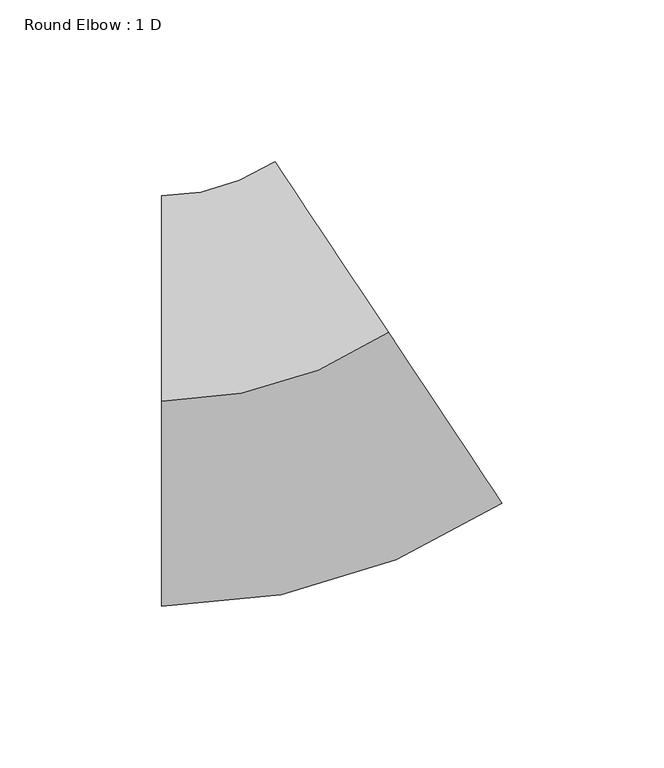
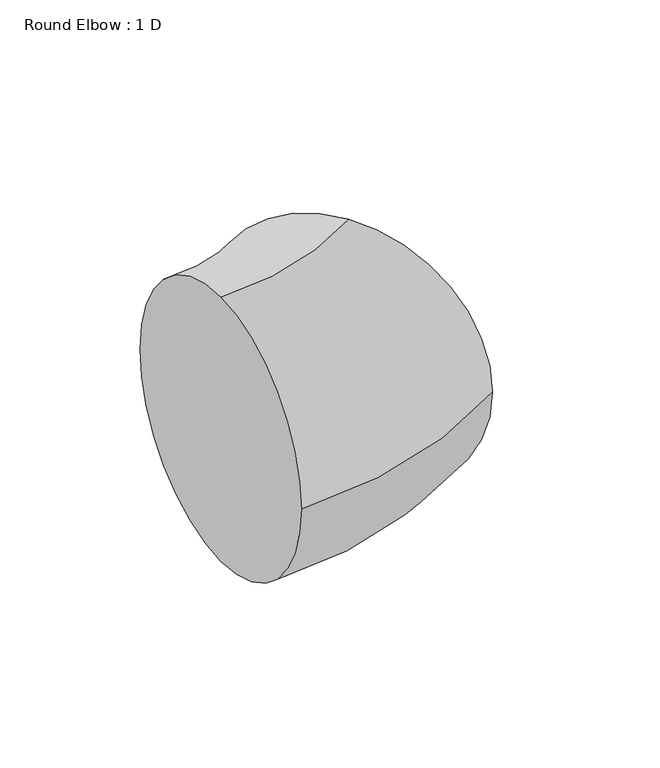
"""IFC4 building model written with IfcOpenShell, lengths in millimetres: duct fitting geometry, Round Elbow : 1 D."""

from ifc_helpers import new_model, si_unit, point, frame, origin, place, context, project, spatial, circle_curve, ellipse_curve, trimmed, source, transform, mapped, element, save
from ifc_brep_helpers import plane_surface, revolved_surface, advanced_brep


def round_elbow_1_d_50cd346b(model_context):
    return source(origin(), model_context, "Body", "AdvancedBrep", [
        advanced_brep(
        [(-38.3655795, 0.0, 63.5), (-38.3655795, 63.5, 0.0), (-38.3655795, 0.0, -63.5), (-38.3655795, -63.5, 0.0), (31.9487578, 21.241341, 63.5), (67.1059265, -31.6379885, 0.0), (31.9487578, 21.241341, -63.5), (-3.2084109, 74.1206705, 0.0)],
        [
            (0, 1, circle_curve(frame((-38.3655795, 0.0, 0.0), z_axis=(-1.0, 0.0, 0.0), x_axis=(0.0, 1.0, 0.0)), 63.5)),
            (1, 2, circle_curve(frame((-38.3655795, 0.0, 0.0), z_axis=(-1.0, 0.0, 0.0), x_axis=(0.0, 1.0, 0.0)), 63.5)),
            (2, 3, circle_curve(frame((-38.3655795, 0.0, 0.0), z_axis=(-1.0, 0.0, 0.0), x_axis=(0.0, 1.0, 0.0)), 63.5)),
            (3, 0, circle_curve(frame((-38.3655795, 0.0, 0.0), z_axis=(-1.0, 0.0, 0.0), x_axis=(0.0, 1.0, 0.0)), 63.5)),
            (4, 5, circle_curve(frame((31.9487578, 21.241341, 0.0), z_axis=(0.8327453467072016, 0.5536561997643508, 0.0), x_axis=(-0.5536561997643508, 0.8327453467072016, 0.0)), 63.5)),
            (5, 6, circle_curve(frame((31.9487578, 21.241341, 0.0), z_axis=(0.8327453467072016, 0.5536561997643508, 0.0), x_axis=(-0.5536561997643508, 0.8327453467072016, 0.0)), 63.5)),
            (6, 7, circle_curve(frame((31.9487578, 21.241341, 0.0), z_axis=(0.8327453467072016, 0.5536561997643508, 0.0), x_axis=(-0.5536561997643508, 0.8327453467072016, 0.0)), 63.5)),
            (7, 4, circle_curve(frame((31.9487578, 21.241341, 0.0), z_axis=(0.8327453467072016, 0.5536561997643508, 0.0), x_axis=(-0.5536561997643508, 0.8327453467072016, 0.0)), 63.5)),
            (7, 1, circle_curve(frame((-38.3655795, 127.0, 0.0), z_axis=(0.0, 0.0, -1.0), x_axis=(0.0, -1.0, 0.0)), 63.5)),
            (0, 4, circle_curve(frame((-38.3655795, 127.0, 63.5), z_axis=(0.0, 0.0, 1.0), x_axis=(0.0, -1.0, 0.0)), 127.0)),
            (6, 2, circle_curve(frame((-38.3655795, 127.0, -63.5), z_axis=(0.0, 0.0, -1.0), x_axis=(0.0, -1.0, 0.0)), 127.0)),
            (5, 3, circle_curve(frame((-38.3655795, 127.0, 0.0), z_axis=(0.0, 0.0, -1.0), x_axis=(0.0, -1.0, 0.0)), 190.5)),
        ],
        [
            plane_surface(frame((-38.3655795, 0.0, 0.0), z_axis=(-1.0, 0.0, 0.0), x_axis=(0.0, 0.0, 1.0))),
            plane_surface(frame((31.9487578, 21.241341, 0.0), z_axis=(0.8327453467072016, 0.5536561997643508, 0.0), x_axis=(0.0, 0.0, 1.0))),
            revolved_surface(trimmed(ellipse_curve(frame((-38.3655795, 0.0, 0.0), z_axis=(-1.0, 0.0, 0.0), x_axis=(0.0, 1.0, 0.0)), 63.5, 63.5), [point((-38.3655795, 0.0, 63.5))], [point((-38.3655795, 63.5, 0.0))], True, "CARTESIAN"), (-38.3655795, 127.0, 0.0), (0.0, 0.0, 1.0)),
            revolved_surface(trimmed(ellipse_curve(frame((-38.3655795, 0.0, 0.0), z_axis=(-1.0, 0.0, 0.0), x_axis=(0.0, 1.0, 0.0)), 63.5, 63.5), [point((-38.3655795, 63.5, 0.0))], [point((-38.3655795, 0.0, -63.5))], True, "CARTESIAN"), (-38.3655795, 127.0, 0.0), (0.0, 0.0, 1.0)),
            revolved_surface(trimmed(ellipse_curve(frame((-38.3655795, 0.0, 0.0), z_axis=(-1.0, 0.0, 0.0), x_axis=(0.0, 1.0, 0.0)), 63.5, 63.5), [point((-38.3655795, 0.0, -63.5))], [point((-38.3655795, -63.5, 0.0))], True, "CARTESIAN"), (-38.3655795, 127.0, 0.0), (0.0, 0.0, 1.0)),
            revolved_surface(trimmed(ellipse_curve(frame((-38.3655795, 0.0, 0.0), z_axis=(-1.0, 0.0, 0.0), x_axis=(0.0, 1.0, 0.0)), 63.5, 63.5), [point((-38.3655795, -63.5, 0.0))], [point((-38.3655795, 0.0, 63.5))], True, "CARTESIAN"), (-38.3655795, 127.0, 0.0), (0.0, 0.0, 1.0)),
        ],
        [
            (0, [[1, 2, 3, 4]]),
            (1, [[5, 6, 7, 8]]),
            (2, [[9, -1, 10, -8]]),
            (3, [[11, -2, -9, -7]]),
            (4, [[12, -3, -11, -6]]),
            (5, [[-10, -4, -12, -5]]),
        ],
    ),
    ])


if __name__ == "__main__":
    model = new_model("IFC4")
    model_context = context("Model", 3, world=origin())
    ifc_project = project(units=[si_unit("LENGTHUNIT", "METRE", prefix="MILLI")], contexts=[model_context])
    site = spatial("IfcSite", under=ifc_project)
    building = spatial("IfcBuilding", under=site)
    placement = place(None, origin())
    round_elbow_1_d_shape = round_elbow_1_d_50cd346b(model_context)
    element("IfcDuctFitting", 1, ObjectType="Round Elbow : 1 D", at=placement, inside=building, context=model_context, shape_type="MappedRepresentation", body=[
        mapped(round_elbow_1_d_shape, transform((0.0, 0.0, 0.0), x_axis=(1.0, 0.0, 0.0), y_axis=(0.0, 1.0, 0.0), z_axis=(0.0, 0.0, 1.0))),
    ])
    save(model, "model.ifc")
